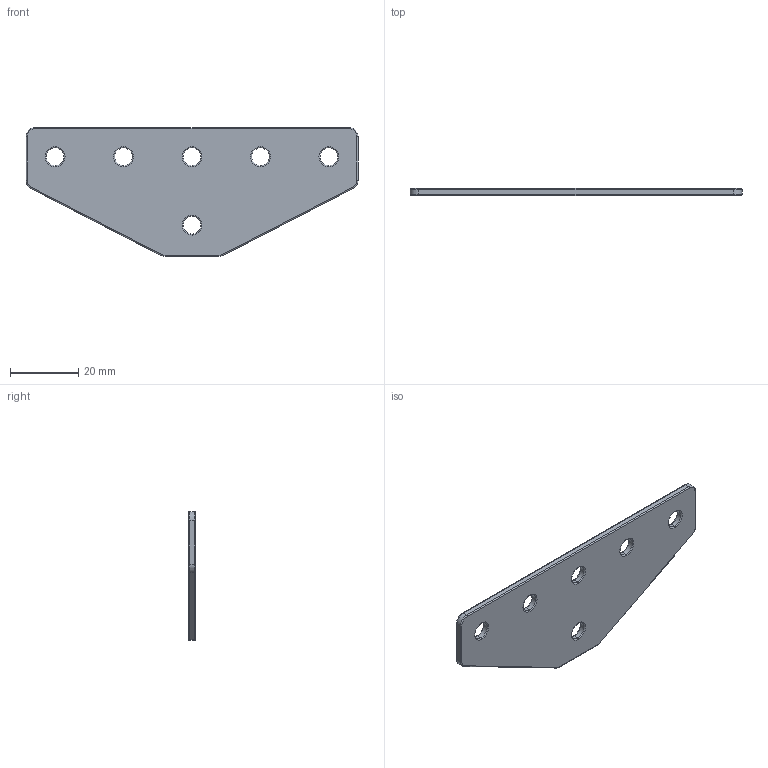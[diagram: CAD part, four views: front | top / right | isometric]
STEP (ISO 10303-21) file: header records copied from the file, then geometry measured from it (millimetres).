
FILE_DESCRIPTION (( 'STEP AP203' ), '1' );
FILE_NAME ('ﾒ-6-ﾓ-20.STEP', '2016-07-22T10:20:55', ( '' ), ( '' ), 'SwSTEP 2.0', 'SolidWorks 2014', '' );
FILE_SCHEMA (( 'CONFIG_CONTROL_DESIGN' ));
Length unit declared in the file: millimetre
Products named in the file (1): ﾒ-6-ﾓ-20
Bounding box: 97 x 2 x 37.62 mm (x, y, z)
Volume: 5373.4 mm3; surface area: 5967.2 mm2
Topology: 1 solids, 1 shells, 74 faces, 168 edges, 96 vertices
Faces by surface type: torus 36, cylinder 30, plane 8
Entity records: 2189 total; most frequent: DIRECTION 438, CARTESIAN_POINT 339, ORIENTED_EDGE 336, AXIS2_PLACEMENT_3D 195, EDGE_CURVE 168, CIRCLE 120, VERTEX_POINT 96, EDGE_LOOP 86
